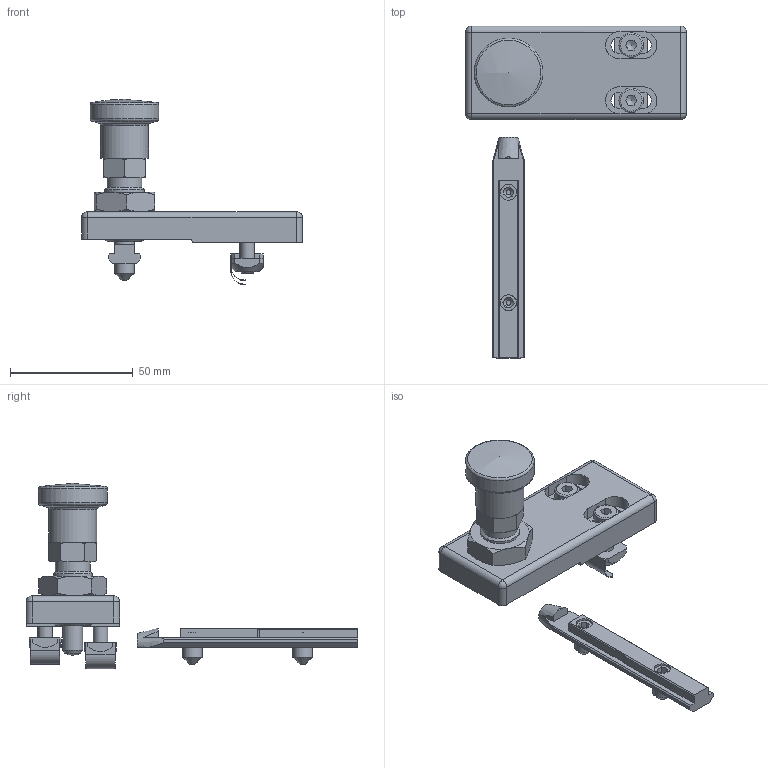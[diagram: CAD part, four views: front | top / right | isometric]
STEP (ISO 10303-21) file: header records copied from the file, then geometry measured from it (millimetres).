
FILE_DESCRIPTION(/* description */ ('SLIDING DOOR SPRING LATCH'),/* implementation_level */ '2;1');
FILE_NAME(/* name */ '21.9311 SLIDING DOOR SPRING LATCH.stp',/* time_stamp */ '2025-11-24T10:08:15-05:00',/* author */ ('amoles'),/* organization */ (''),/* preprocessor_version */ 'ST-DEVELOPER v19.2',/* originating_system */ 'Autodesk Inventor 2024',/* authorisation */ '');
FILE_SCHEMA (('AUTOMOTIVE_DESIGN { 1 0 10303 214 3 1 1 }'));
Products named in the file (9): 21.9311 ; 21.9311/1; 21.1240  ; 21.1330/2; 29.0855/9; 21.9175 ; 21.9311/2 ; 21.9311/2 _1; 21.1303
Assembly tree (11 placements, depth 3):
  21.9311 
    21.9311/1
    21.1240    x2
    21.1330/2  x2
    29.0855/9
    21.9175 
    21.9311/2 
      21.9311/2 _1
      21.1303  x2
Bounding box: 90 x 135.22 x 75.5 mm (x, y, z)
Volume: 65259.7 mm3; surface area: 24995.1 mm2
Topology: 10 solids, 10 shells, 226 faces, 577 edges, 374 vertices
Faces by surface type: plane 119, cylinder 48, cone 45, sphere 6, torus 5, bspline 3
Full cylindrical faces by diameter (mm): 6 x4, 6.647 x2, 8 x3, 10 x2, 14.16 x1, 14.376 x1, 16 x5, 19.6 x1, 28 x1
Entity records: 6757 total; most frequent: CARTESIAN_POINT 2258, ORIENTED_EDGE 914, DIRECTION 850, EDGE_CURVE 457, AXIS2_PLACEMENT_3D 322, VERTEX_POINT 297, LINE 206, VECTOR 206
